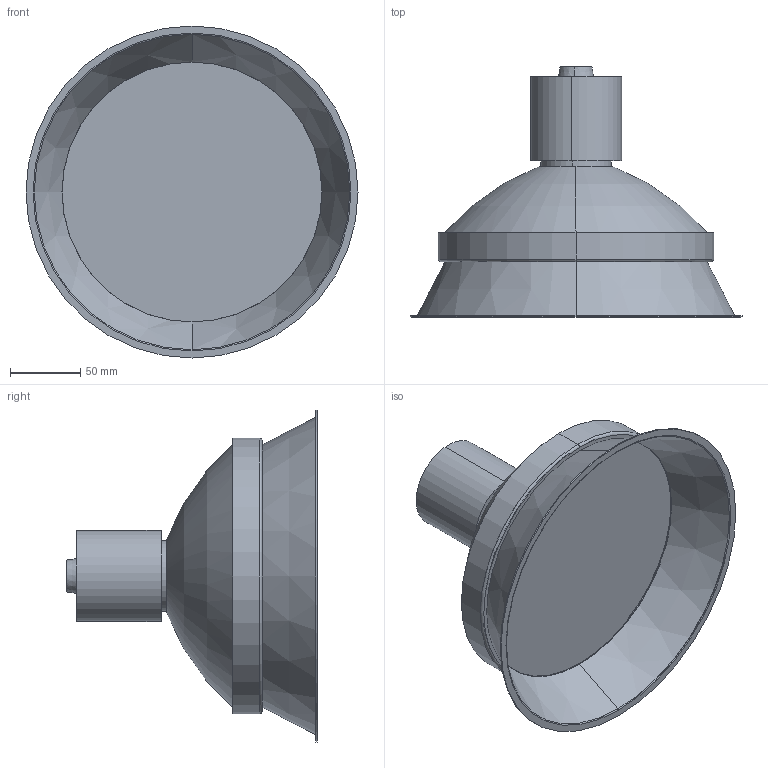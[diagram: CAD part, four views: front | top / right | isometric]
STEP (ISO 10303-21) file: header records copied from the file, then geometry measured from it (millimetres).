
FILE_DESCRIPTION (( 'STEP AP214' ), '1' );
FILE_NAME ('KONO PLUS-18W.STEP', '2017-08-22T11:57:02', ( 'Ofitecnic3' ), ( 'Microsoft' ), 'SwSTEP 2.0', 'SolidWorks 2016', '' );
FILE_SCHEMA (( 'AUTOMOTIVE_DESIGN' ));
Length unit declared in the file: millimetre
Products named in the file (5): KONO PLUS-18W; reflector 530_PLUS-BIM_reflector530Plus_port.EVO; Cuerpo Kono Plus-BIM; Difusor RINGO PLUS ﾘ  193 mm BIM; MODULOS VS-BIM_18W
Assembly tree (4 placements, depth 2):
  KONO PLUS-18W
    Cuerpo Kono Plus-BIM
    Difusor RINGO PLUS ﾘ  193 mm BIM
    reflector 530_PLUS-BIM_reflector530Plus_port.EVO
    MODULOS VS-BIM_18W
Bounding box: 236.22 x 178.03 x 236.22 mm (x, y, z)
Volume: 351541 mm3; surface area: 266057.5 mm2
Topology: 4 solids, 4 shells, 56 faces, 106 edges, 64 vertices
Faces by surface type: torus 20, cylinder 16, plane 14, cone 6
Entity records: 1746 total; most frequent: DIRECTION 316, CARTESIAN_POINT 233, ORIENTED_EDGE 212, AXIS2_PLACEMENT_3D 147, EDGE_CURVE 106, CIRCLE 84, EDGE_LOOP 64, VERTEX_POINT 64
